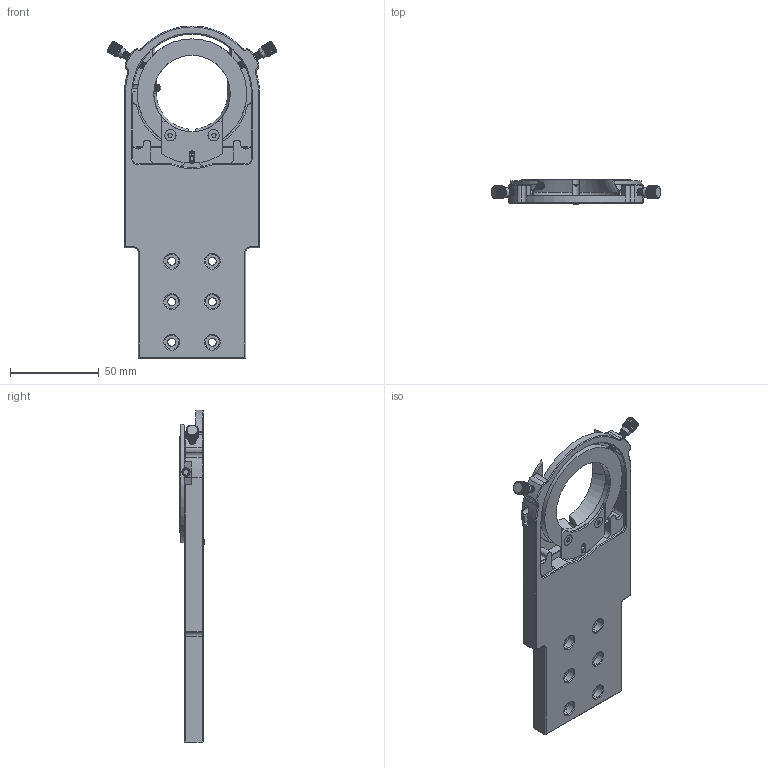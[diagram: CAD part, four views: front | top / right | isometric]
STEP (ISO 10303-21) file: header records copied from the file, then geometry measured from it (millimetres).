
FILE_DESCRIPTION((''),'2;1');
FILE_NAME('CMA95-OLYMPUS_ASM','2026-07-04T14:46:29',('R&D'),(''),'CREO PARAMETRIC BY PTC INC, 2021063','CREO PARAMETRIC BY PTC INC, 2021063','');
FILE_SCHEMA(('CONFIG_CONTROL_DESIGN'));
Products named in the file (12): CMA95-OLYMPUS-1; CMA95-OLYMPUS-2; CMA95-OLYMPUS-3; CMA95-OLYMPUS-4; CMA95-OLYMPUS-6; CMA95-OLYMPUS-7; ISO14581-M3X4-4_8; CMA95-OLYMPUS-8; CMA95-OLYMPUS-9; CMA95-OLYMPUS-10; CMA95-OLYMPUS-13; CMA95-OLYMPUS_ASM
Assembly tree (15 placements, depth 2):
  CMA95-OLYMPUS_ASM
    CMA95-OLYMPUS-1
    CMA95-OLYMPUS-2
    CMA95-OLYMPUS-3
    CMA95-OLYMPUS-4
    CMA95-OLYMPUS-6  x2
    CMA95-OLYMPUS-7  x2
    ISO14581-M3X4-4_8  x2
    CMA95-OLYMPUS-8  x2
    CMA95-OLYMPUS-9
    CMA95-OLYMPUS-10
    CMA95-OLYMPUS-13
Bounding box: 95.73 x 13.81 x 187.32 mm (x, y, z)
Volume: 102230.8 mm3; surface area: 40942.1 mm2
Topology: 15 solids, 15 shells, 1079 faces, 2921 edges, 1873 vertices
Faces by surface type: cylinder 474, plane 325, cone 126, bspline 123, extrusion 19, sphere 12
Entity records: 48304 total; most frequent: CARTESIAN_POINT 29285, ORIENTED_EDGE 4326, DIRECTION 3279, EDGE_CURVE 2163, VERTEX_POINT 1390, AXIS2_PLACEMENT_3D 1204, VECTOR 871, EDGE_LOOP 865
